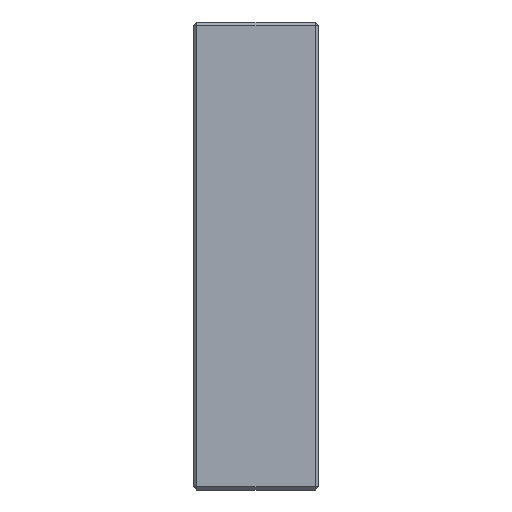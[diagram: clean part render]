
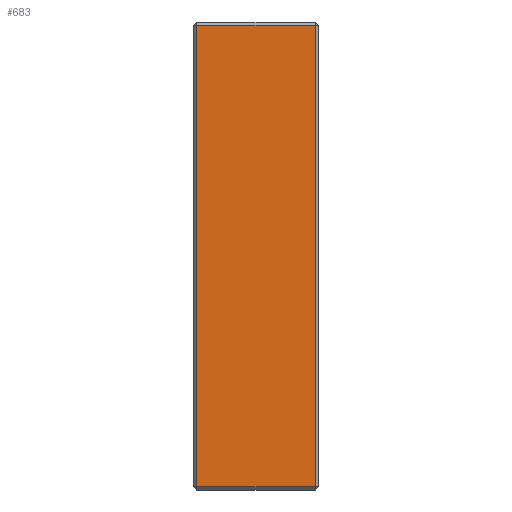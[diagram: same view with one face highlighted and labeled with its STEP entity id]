
A CAD part, left-side view. The second image highlights one B-rep face of the part: STEP entity #683.
In plain terms, the highlighted planar face has unit normal (-1, 0, 0).
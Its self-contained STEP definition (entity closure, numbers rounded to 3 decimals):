
#74 = EDGE_CURVE ( 'NONE', #1517, #2933, #1579, .T. ) ;
#235 = LINE ( 'NONE', #2988, #3241 ) ;
#329 = CARTESIAN_POINT ( 'NONE',  ( -50., 9.5, -37. ) ) ;
#344 = ORIENTED_EDGE ( 'NONE', *, *, #74, .T. ) ;
#557 = CARTESIAN_POINT ( 'NONE',  ( -50., -9.5, -37.5 ) ) ;
#593 = VECTOR ( 'NONE', #2634, 1000. ) ;
#600 = VERTEX_POINT ( 'NONE', #1603 ) ;
#659 = EDGE_LOOP ( 'NONE', ( #3045, #344, #1227, #2672 ) ) ;
#667 = EDGE_CURVE ( 'NONE', #668, #600, #2044, .T. ) ;
#668 = VERTEX_POINT ( 'NONE', #3140 ) ;
#683 = ADVANCED_FACE ( 'NONE', ( #1376 ), #850, .F. ) ;
#764 = EDGE_CURVE ( 'NONE', #600, #1517, #235, .T. ) ;
#850 = PLANE ( 'NONE',  #3302 ) ;
#1193 = EDGE_CURVE ( 'NONE', #2933, #668, #2646, .T. ) ;
#1227 = ORIENTED_EDGE ( 'NONE', *, *, #1193, .T. ) ;
#1356 = DIRECTION ( 'NONE',  ( 1., 0., 0. ) ) ;
#1376 = FACE_OUTER_BOUND ( 'NONE', #659, .T. ) ;
#1460 = VECTOR ( 'NONE', #2687, 1000. ) ;
#1517 = VERTEX_POINT ( 'NONE', #2866 ) ;
#1579 = LINE ( 'NONE', #557, #3006 ) ;
#1603 = CARTESIAN_POINT ( 'NONE',  ( -50., 9.5, -37. ) ) ;
#1751 = CARTESIAN_POINT ( 'NONE',  ( -50., -9.5, 37. ) ) ;
#1878 = CARTESIAN_POINT ( 'NONE',  ( -50., 10., -37.5 ) ) ;
#2044 = LINE ( 'NONE', #329, #593 ) ;
#2208 = DIRECTION ( 'NONE',  ( 0., -1., 0. ) ) ;
#2602 = DIRECTION ( 'NONE',  ( 0., 0., 1. ) ) ;
#2634 = DIRECTION ( 'NONE',  ( 0., 0., -1. ) ) ;
#2646 = LINE ( 'NONE', #2677, #1460 ) ;
#2672 = ORIENTED_EDGE ( 'NONE', *, *, #667, .T. ) ;
#2677 = CARTESIAN_POINT ( 'NONE',  ( -50., 10., 37. ) ) ;
#2687 = DIRECTION ( 'NONE',  ( 0., 1., 0. ) ) ;
#2866 = CARTESIAN_POINT ( 'NONE',  ( -50., -9.5, -37. ) ) ;
#2933 = VERTEX_POINT ( 'NONE', #1751 ) ;
#2988 = CARTESIAN_POINT ( 'NONE',  ( -50., 10., -37. ) ) ;
#3006 = VECTOR ( 'NONE', #2602, 1000. ) ;
#3045 = ORIENTED_EDGE ( 'NONE', *, *, #764, .T. ) ;
#3140 = CARTESIAN_POINT ( 'NONE',  ( -50., 9.5, 37. ) ) ;
#3153 = DIRECTION ( 'NONE',  ( 0., 0., -1. ) ) ;
#3241 = VECTOR ( 'NONE', #2208, 1000. ) ;
#3302 = AXIS2_PLACEMENT_3D ( 'NONE', #1878, #1356, #3153 ) ;
